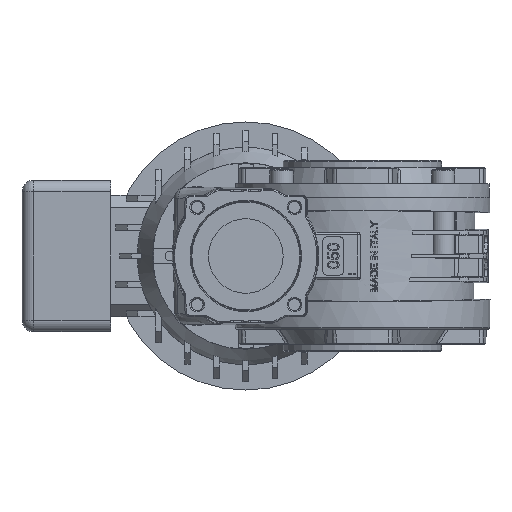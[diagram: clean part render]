
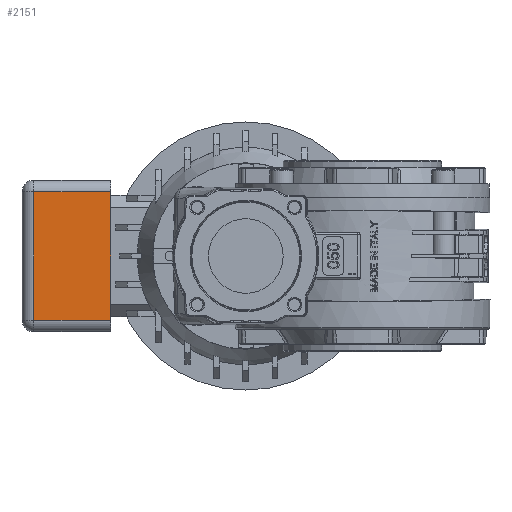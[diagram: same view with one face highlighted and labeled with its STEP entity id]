
A CAD part, left-side view. The second image highlights one B-rep face of the part: STEP entity #2151.
In plain terms, the highlighted planar face has unit normal (-1, 0, 0).
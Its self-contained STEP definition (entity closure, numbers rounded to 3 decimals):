
#2151 = ADVANCED_FACE( '', ( #5438 ), #5439, .T. );
#5438 = FACE_OUTER_BOUND( '', #11873, .T. );
#5439 = PLANE( '', #11874 );
#11873 = EDGE_LOOP( '', ( #23275, #23276, #23277, #23278 ) );
#11874 = AXIS2_PLACEMENT_3D( '', #23279, #23280, #23281 );
#23275 = ORIENTED_EDGE( '', *, *, #34409, .T. );
#23276 = ORIENTED_EDGE( '', *, *, #34410, .T. );
#23277 = ORIENTED_EDGE( '', *, *, #34411, .T. );
#23278 = ORIENTED_EDGE( '', *, *, #34412, .T. );
#23279 = CARTESIAN_POINT( '', ( 109.5, 108., -32.5 ) );
#23280 = DIRECTION( '', ( -1., 0., 0. ) );
#23281 = DIRECTION( '', ( 0., 0., -1. ) );
#34409 = EDGE_CURVE( '', #40420, #40421, #40422, .T. );
#34410 = EDGE_CURVE( '', #40421, #40423, #40424, .T. );
#34411 = EDGE_CURVE( '', #40423, #40425, #40426, .F. );
#34412 = EDGE_CURVE( '', #40425, #40420, #40427, .T. );
#40420 = VERTEX_POINT( '', #52154 );
#40421 = VERTEX_POINT( '', #52155 );
#40422 = LINE( '', #52156, #52157 );
#40423 = VERTEX_POINT( '', #52158 );
#40424 = LINE( '', #52159, #52160 );
#40425 = VERTEX_POINT( '', #52161 );
#40426 = LINE( '', #52162, #52163 );
#40427 = LINE( '', #52164, #52165 );
#52154 = CARTESIAN_POINT( '', ( 109.5, 141., 27.5 ) );
#52155 = CARTESIAN_POINT( '', ( 109.5, 141., -27.5 ) );
#52156 = CARTESIAN_POINT( '', ( 109.5, 141., -32.5 ) );
#52157 = VECTOR( '', #65257, 1000. );
#52158 = CARTESIAN_POINT( '', ( 109.5, 108., -27.5 ) );
#52159 = CARTESIAN_POINT( '', ( 109.5, 108., -27.5 ) );
#52160 = VECTOR( '', #65258, 1000. );
#52161 = CARTESIAN_POINT( '', ( 109.5, 108., 27.5 ) );
#52162 = CARTESIAN_POINT( '', ( 109.5, 108., -32.5 ) );
#52163 = VECTOR( '', #65259, 1000. );
#52164 = CARTESIAN_POINT( '', ( 109.5, 108., 27.5 ) );
#52165 = VECTOR( '', #65260, 1000. );
#65257 = DIRECTION( '', ( 0., 0., -1. ) );
#65258 = DIRECTION( '', ( 0., -1., 0. ) );
#65259 = DIRECTION( '', ( 0., 0., -1. ) );
#65260 = DIRECTION( '', ( 0., 1., 0. ) );
